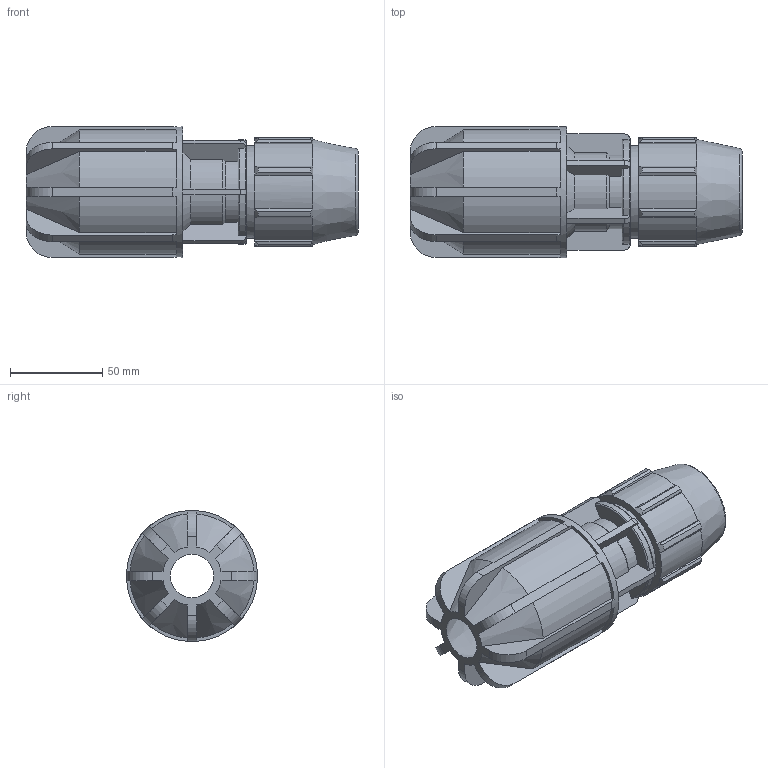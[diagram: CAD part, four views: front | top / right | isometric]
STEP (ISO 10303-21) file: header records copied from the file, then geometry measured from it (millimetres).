
FILE_DESCRIPTION(/* description */ ('PLASSON PLASS4 COUPLING 1'''' - 0.925'),/* implementation_level */ '2;1');
FILE_NAME(/* name */ 'C:\Dropbox\KIMPROJECTS-Inventor 2019\99-16-3568-Processing Inch\ASTM Compression 2021\070170M0\070170M10027.ipt.stp',/* time_stamp */ '2021-08-26T12:29:04+03:00',/* author */ ('KIM'),/* organization */ (''),/* preprocessor_version */ 'ST-DEVELOPER v17.2',/* originating_system */ 'Autodesk Inventor 2019',/* authorisation */ '');
FILE_SCHEMA (('AUTOMOTIVE_DESIGN { 1 0 10303 214 3 1 1 }'));
Length unit declared in the file: inch
Products named in the file (1): 070170M10027
Bounding box: 180.09 x 71.12 x 71.12 mm (x, y, z)
Volume: 312831.8 mm3; surface area: 72044 mm2
Topology: 1 solids, 1 shells, 244 faces, 712 edges, 475 vertices
Faces by surface type: plane 135, cylinder 61, cone 34, torus 14
Full cylindrical faces by diameter (mm): 29.97 x1, 32.614 x1, 33.3 x1, 50.394 x1, 71.12 x1
Entity records: 8583 total; most frequent: CARTESIAN_POINT 1888, ORIENTED_EDGE 1424, DIRECTION 1305, EDGE_CURVE 712, VERTEX_POINT 475, AXIS2_PLACEMENT_3D 463, LINE 379, VECTOR 379
